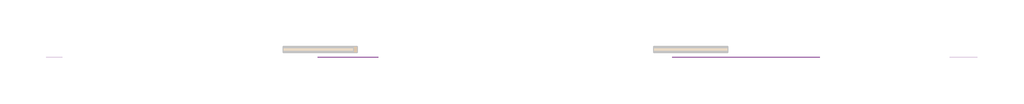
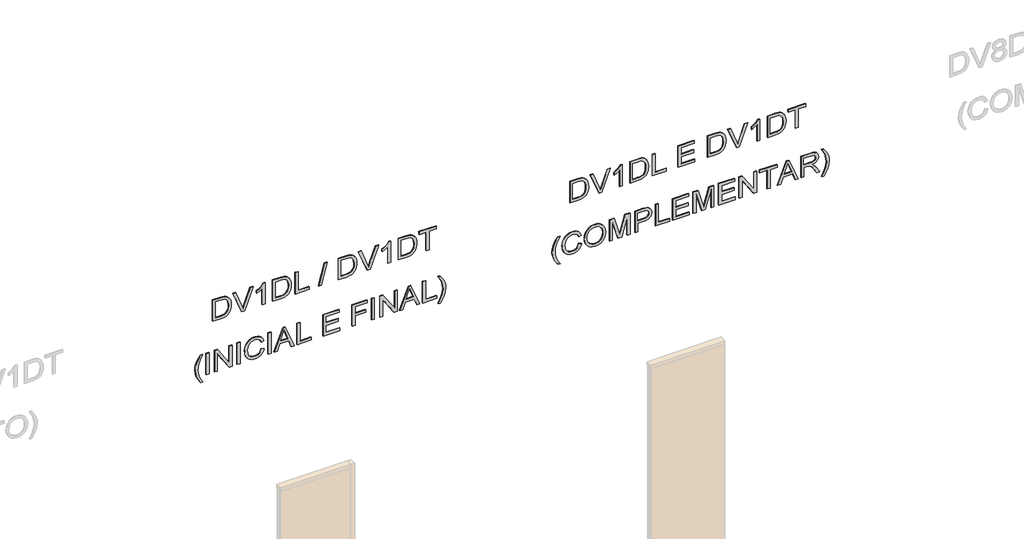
# One storey, part 2 of 7: 2 proxies.
"""IFC4 building model written with IfcOpenShell, lengths in millimetres."""

from ifc_helpers import new_model, si_unit, frame, origin, place, context, project, spatial, polyline, outline, extrude, element, save

model = new_model("IFC4")

# Units and contexts
model_context = context("Model", 3, world=origin())
ifc_project = project(units=[si_unit("LENGTHUNIT", "METRE", prefix="MILLI")], contexts=[model_context])

# Site, building, storey
site = spatial("IfcSite", under=ifc_project)
building = spatial("IfcBuilding", under=site)
storey = spatial("IfcBuildingStorey", under=building, Name="02 - Marelli - Planta Baixa - Painel Duplo", Elevation=-12000.0)

# Proxies
placement = place(None, origin())
element("IfcBuildingElementProxy", 1, Name="300mm Arial", ObjectType="300mm Arial", at=placement, inside=storey, context=model_context, shape_type="SweptSolid", body=[
    extrude(outline(polyline([(-6049.0625952, 2422.3257524), (-6049.0625952, 2531.2923993), (-6043.9122473, 2579.7424581), (-6037.5570858, 2599.2861891), (-6028.7922972, 2615.7581054), (-6016.9740882, 2630.1055032), (-6001.458665, 2643.2756787), (-5981.8045694, 2654.7168087), (-5957.570343, 2663.8770704), (-5929.1054736, 2669.891941), (-5896.7594492, 2671.8968979), (-5858.6836627, 2668.9354478), (-5825.0960365, 2660.0510977), (-5796.5483937, 2645.2070591), (-5773.5925572, 2624.3665441), (-5760.4039877, 2604.0962462), (-5752.0346723, 2580.0735519), (-5747.6936647, 2526.2892042), (-5747.6936647, 2422.3257524), (-6049.0625952, 2422.3257524)]), holes=[polyline([(-6011.3914789, 2459.9968687), (-5785.364781, 2459.9968687), (-5785.364781, 2525.6270166), (-5786.8730972, 2557.3752328), (-5791.3980458, 2579.0434823), (-5803.97961, 2600.3346528), (-5824.8017309, 2618.1493384), (-5855.1152073, 2630.2066708), (-5896.170838, 2634.2257816), (-5927.155699, 2632.1748395), (-5953.155759, 2626.0220131), (-5974.2629885, 2616.1903668), (-5990.5693579, 2603.1029648), (-5999.3801317, 2590.9260708), (-6005.9468253, 2575.1439332), (-6010.0303155, 2554.2298417), (-6011.3914789, 2526.6570862), (-6011.3914789, 2459.9968687)])]), frame((0.0, 8778.3159498, 0.0), z_axis=(0.0, 1.0, 0.0), x_axis=(0.0, 0.0, 1.0)), (0.0, 0.0, 1.0), 10.0),
    extrude(outline(polyline([(-6049.0625952, 2812.7221256), (-6049.0625952, 2851.6440407), (-5747.6936647, 2966.4967996), (-5747.6936647, 2926.176933), (-5964.8176183, 2845.6843524), (-6013.7459236, 2829.6446974), (-5964.8176183, 2813.3843132), (-5747.6936647, 2733.1124619), (-5747.6936647, 2692.7925952), (-6049.0625952, 2812.7221256)])), frame((0.0, 8778.3159498, 0.0), z_axis=(0.0, 1.0, 0.0), x_axis=(0.0, 0.0, 1.0)), (0.0, 0.0, 1.0), 10.0),
    extrude(outline(polyline([(-6049.0625952, 3128.6591831), (-5747.6936647, 3128.6591831), (-5747.6936647, 3104.3789714), (-5767.4305338, 3091.0708403), (-5787.7928022, 3070.8649217), (-5806.9410601, 3045.2327437), (-5823.0358973, 3015.6458342), (-5858.6468745, 3015.6458342), (-5839.6273753, 3055.3035133), (-5814.2067295, 3090.9880668), (-6049.0625952, 3090.9880668), (-6049.0625952, 3128.6591831)])), frame((0.0, 8778.3159498, 0.0), z_axis=(0.0, 1.0, 0.0), x_axis=(0.0, 0.0, 1.0)), (0.0, 0.0, 1.0), 10.0),
    extrude(outline(polyline([(-6049.0625952, 3232.2547529), (-6049.0625952, 3341.2213999), (-6043.9122473, 3389.6714587), (-6037.5570858, 3409.2151897), (-6028.7922972, 3425.687106), (-6016.9740882, 3440.0345038), (-6001.458665, 3453.2046793), (-5981.8045694, 3464.6458093), (-5957.570343, 3473.806071), (-5929.1054736, 3479.8209416), (-5896.7594492, 3481.8258985), (-5858.6836627, 3478.8644484), (-5825.0960365, 3469.9800982), (-5796.5483937, 3455.1360597), (-5773.5925572, 3434.2955447), (-5760.4039877, 3414.0252468), (-5752.0346723, 3390.0025525), (-5747.6936647, 3336.2182048), (-5747.6936647, 3232.2547529), (-6049.0625952, 3232.2547529)]), holes=[polyline([(-6011.3914789, 3269.9258693), (-5785.364781, 3269.9258693), (-5785.364781, 3335.5560172), (-5786.8730972, 3367.3042334), (-5791.3980458, 3388.9724829), (-5803.97961, 3410.2636534), (-5824.8017309, 3428.078339), (-5855.1152073, 3440.1356714), (-5896.170838, 3444.1547822), (-5927.155699, 3442.10384), (-5953.155759, 3435.9510137), (-5974.2629885, 3426.1193674), (-5990.5693579, 3413.0319654), (-5999.3801317, 3400.8550713), (-6005.9468253, 3385.0729337), (-6010.0303155, 3364.1588423), (-6011.3914789, 3336.5860868), (-6011.3914789, 3269.9258693)])]), frame((0.0, 8778.3159498, 0.0), z_axis=(0.0, 1.0, 0.0), x_axis=(0.0, 0.0, 1.0)), (0.0, 0.0, 1.0), 10.0),
    extrude(outline(polyline([(-6049.0625952, 3533.6236834), (-6049.0625952, 3721.9792649), (-6011.3914789, 3721.9792649), (-6011.3914789, 3571.2947997), (-5747.6936647, 3571.2947997), (-5747.6936647, 3533.6236834), (-6049.0625952, 3533.6236834)])), frame((0.0, 8778.3159498, 0.0), z_axis=(0.0, 1.0, 0.0), x_axis=(0.0, 0.0, 1.0)), (0.0, 0.0, 1.0), 10.0),
    extrude(outline(polyline([(-6049.0625952, 3849.1192825), (-6049.0625952, 3883.1115788), (-5747.6936647, 3967.8715905), (-5747.6936647, 3933.8792942), (-6049.0625952, 3849.1192825)])), frame((0.0, 8778.3159498, 0.0), z_axis=(0.0, 1.0, 0.0), x_axis=(0.0, 0.0, 1.0)), (0.0, 0.0, 1.0), 10.0),
    extrude(outline(polyline([(-6049.0625952, 4117.5259861), (-6049.0625952, 4226.4926331), (-6043.9122473, 4274.9426919), (-6037.5570858, 4294.4864229), (-6028.7922972, 4310.9583392), (-6016.9740882, 4325.305737), (-6001.458665, 4338.4759124), (-5981.8045694, 4349.9170425), (-5957.570343, 4359.0773042), (-5929.1054736, 4365.0921748), (-5896.7594492, 4367.0971317), (-5858.6836627, 4364.1356816), (-5825.0960365, 4355.2513314), (-5796.5483937, 4340.4072929), (-5773.5925572, 4319.5667779), (-5760.4039877, 4299.29648), (-5752.0346723, 4275.2737857), (-5747.6936647, 4221.489438), (-5747.6936647, 4117.5259861), (-6049.0625952, 4117.5259861)]), holes=[polyline([(-6011.3914789, 4155.1971024), (-5785.364781, 4155.1971024), (-5785.364781, 4220.8272504), (-5786.8730972, 4252.5754666), (-5791.3980458, 4274.2437161), (-5803.97961, 4295.5348866), (-5824.8017309, 4313.3495722), (-5855.1152073, 4325.4069046), (-5896.170838, 4329.4260154), (-5927.155699, 4327.3750732), (-5953.155759, 4321.2222469), (-5974.2629885, 4311.3906006), (-5990.5693579, 4298.3031986), (-5999.3801317, 4286.1263045), (-6005.9468253, 4270.3441669), (-6010.0303155, 4249.4300755), (-6011.3914789, 4221.85732), (-6011.3914789, 4155.1971024)])]), frame((0.0, 8778.3159498, 0.0), z_axis=(0.0, 1.0, 0.0), x_axis=(0.0, 0.0, 1.0)), (0.0, 0.0, 1.0), 10.0),
    extrude(outline(polyline([(-6049.0625952, 4507.9223594), (-6049.0625952, 4546.8442745), (-5747.6936647, 4661.6970334), (-5747.6936647, 4621.3771667), (-5964.8176183, 4540.8845862), (-6013.7459236, 4524.8449312), (-5964.8176183, 4508.584547), (-5747.6936647, 4428.3126957), (-5747.6936647, 4387.992829), (-6049.0625952, 4507.9223594)])), frame((0.0, 8778.3159498, 0.0), z_axis=(0.0, 1.0, 0.0), x_axis=(0.0, 0.0, 1.0)), (0.0, 0.0, 1.0), 10.0),
    extrude(outline(polyline([(-6049.0625952, 4823.8594169), (-5747.6936647, 4823.8594169), (-5747.6936647, 4799.5792052), (-5767.4305338, 4786.271074), (-5787.7928022, 4766.0651554), (-5806.9410601, 4740.4329774), (-5823.0358973, 4710.846068), (-5858.6468745, 4710.846068), (-5839.6273753, 4750.503747), (-5814.2067295, 4786.1883006), (-6049.0625952, 4786.1883006), (-6049.0625952, 4823.8594169)])), frame((0.0, 8778.3159498, 0.0), z_axis=(0.0, 1.0, 0.0), x_axis=(0.0, 0.0, 1.0)), (0.0, 0.0, 1.0), 10.0),
    extrude(outline(polyline([(-6049.0625952, 4927.4549867), (-6049.0625952, 5036.4216337), (-6043.9122473, 5084.8716925), (-6037.5570858, 5104.4154235), (-6028.7922972, 5120.8873398), (-6016.9740882, 5135.2347376), (-6001.458665, 5148.404913), (-5981.8045694, 5159.8460431), (-5957.570343, 5169.0063048), (-5929.1054736, 5175.0211754), (-5896.7594492, 5177.0261323), (-5858.6836627, 5174.0646822), (-5825.0960365, 5165.180332), (-5796.5483937, 5150.3362935), (-5773.5925572, 5129.4957785), (-5760.4039877, 5109.2254805), (-5752.0346723, 5085.2027863), (-5747.6936647, 5031.4184386), (-5747.6936647, 4927.4549867), (-6049.0625952, 4927.4549867)]), holes=[polyline([(-6011.3914789, 4965.126103), (-5785.364781, 4965.126103), (-5785.364781, 5030.756251), (-5786.8730972, 5062.5044672), (-5791.3980458, 5084.1727167), (-5803.97961, 5105.4638871), (-5824.8017309, 5123.2785728), (-5855.1152073, 5135.3359051), (-5896.170838, 5139.3550159), (-5927.155699, 5137.3040738), (-5953.155759, 5131.1512475), (-5974.2629885, 5121.3196011), (-5990.5693579, 5108.2321992), (-5999.3801317, 5096.0553051), (-6005.9468253, 5080.2731675), (-6010.0303155, 5059.3590761), (-6011.3914789, 5031.7863206), (-6011.3914789, 4965.126103)])]), frame((0.0, 8778.3159498, 0.0), z_axis=(0.0, 1.0, 0.0), x_axis=(0.0, 0.0, 1.0)), (0.0, 0.0, 1.0), 10.0),
    extrude(outline(polyline([(-6049.0625952, 5304.1661498), (-6049.0625952, 5341.8372661), (-5785.364781, 5341.8372661), (-5785.364781, 5440.7239464), (-5747.6936647, 5440.7239464), (-5747.6936647, 5205.2794695), (-5785.364781, 5205.2794695), (-5785.364781, 5304.1661498), (-6049.0625952, 5304.1661498)])), frame((0.0, 8778.3159498, 0.0), z_axis=(0.0, 1.0, 0.0), x_axis=(0.0, 0.0, 1.0)), (0.0, 0.0, 1.0), 10.0),
    extrude(outline(polyline([(-6865.6715139, 2257.5146185), (-6865.6715139, 2285.7679558), (-6817.4329873, 2256.9260073), (-6769.1760666, 2236.3246156), (-6720.9007518, 2223.9637806), (-6672.6070429, 2219.8435022), (-6634.7335915, 2222.2163411), (-6597.0440811, 2229.3348577), (-6539.2130314, 2250.5248606), (-6479.5425718, 2285.7679558), (-6479.5425718, 2257.5146185), (-6530.0527697, 2222.8233464), (-6580.7836969, 2198.5063465), (-6625.5733298, 2186.2558761), (-6672.3863137, 2182.1723859), (-6725.7659912, 2187.6354335), (-6777.3062587, 2204.0245764), (-6824.7078538, 2228.3231822), (-6865.6715139, 2257.5146185)])), frame((0.0, 8778.3159498, 0.0), z_axis=(0.0, 1.0, 0.0), x_axis=(0.0, 0.0, 1.0)), (0.0, 0.0, 1.0), 10.0),
    extrude(outline(polyline([(2370.5279674, 8778.3159498), (2332.8568511, 8778.3159498), (2332.8568511, 8788.3159498), (2370.5279674, 8788.3159498), (2370.5279674, 8778.3159498)])), frame((0.0, 0.0, -6780.9115023), z_axis=(0.0, 0.0, 1.0), x_axis=(1.0, 0.0, 0.0)), (0.0, 0.0, 1.0), 301.3689304),
    extrude(outline(polyline([(-6780.9115023, 2445.8702001), (-6780.9115023, 2483.5413164), (-6542.082511, 2483.5413164), (-6780.9115023, 2640.9948103), (-6780.9115023, 2681.314677), (-6479.5425718, 2681.314677), (-6479.5425718, 2643.6435607), (-6718.2979867, 2643.6435607), (-6479.5425718, 2486.1900667), (-6479.5425718, 2445.8702001), (-6780.9115023, 2445.8702001)])), frame((0.0, 8778.3159498, 0.0), z_axis=(0.0, 1.0, 0.0), x_axis=(0.0, 0.0, 1.0)), (0.0, 0.0, 1.0), 10.0),
    extrude(outline(polyline([(2789.6191364, 8778.3159498), (2751.94802, 8778.3159498), (2751.94802, 8788.3159498), (2789.6191364, 8788.3159498), (2789.6191364, 8778.3159498)])), frame((0.0, 0.0, -6780.9115023), z_axis=(0.0, 0.0, 1.0), x_axis=(1.0, 0.0, 0.0)), (0.0, 0.0, 1.0), 301.3689304),
    extrude(outline(polyline([(-6673.7842653, 3076.8613982), (-6706.0475162, 3064.6753071), (-6729.2608701, 3044.8924528), (-6743.2771741, 3018.6900577), (-6747.9492755, 2987.2453442), (-6744.5187759, 2960.2703969), (-6734.2272771, 2935.2636182), (-6717.0012026, 2914.4047091), (-6692.7669762, 2899.8733703), (-6662.674229, 2891.3477051), (-6627.8725923, 2888.5058167), (-6599.4537081, 2890.9062467), (-6571.8809526, 2898.1075367), (-6547.4903763, 2911.2317269), (-6528.61803, 2931.4008573), (-6516.5331064, 2957.9803314), (-6512.5047986, 2990.3355529), (-6516.1376333, 3018.4049492), (-6527.0361374, 3041.2504211), (-6545.8808926, 3059.0926978), (-6573.3524806, 3072.1525086), (-6564.3761599, 3109.823625), (-6526.5578908, 3093.1861617), (-6511.2356057, 3081.3840475), (-6498.3045536, 3067.2596781), (-6488.0360474, 3051.0797681), (-6480.7014001, 3033.1110319), (-6474.8336823, 2991.8070809), (-6479.3678279, 2953.9520236), (-6492.9702646, 2919.4079043), (-6515.3098988, 2890.2808473), (-6546.0556365, 2868.6769771), (-6584.0026643, 2855.2952695), (-6627.9461687, 2850.8347003), (-6669.6088046, 2854.7802347), (-6708.5123256, 2866.6168379), (-6741.6033111, 2886.0042191), (-6765.8283405, 2912.6020873), (-6780.672379, 2947.3025565), (-6785.6203918, 2990.9977405), (-6783.9856162, 3013.4201481), (-6779.0812893, 3034.0399339), (-6770.9074112, 3052.857098), (-6759.4639819, 3069.8716403), (-6744.9073512, 3084.7478685), (-6727.393869, 3097.1500902), (-6706.9235352, 3107.0783056), (-6683.4963499, 3114.5325145), (-6673.7842653, 3076.8613982)])), frame((0.0, 8778.3159498, 0.0), z_axis=(0.0, 1.0, 0.0), x_axis=(0.0, 0.0, 1.0)), (0.0, 0.0, 1.0), 10.0),
    extrude(outline(polyline([(3208.7103053, 8778.3159498), (3171.039189, 8778.3159498), (3171.039189, 8788.3159498), (3208.7103053, 8788.3159498), (3208.7103053, 8778.3159498)])), frame((0.0, 0.0, -6780.9115023), z_axis=(0.0, 0.0, 1.0), x_axis=(1.0, 0.0, 0.0)), (0.0, 0.0, 1.0), 301.3689304),
    extrude(outline(polyline([(-6780.9115023, 3248.9565955), (-6780.9115023, 3288.7614274), (-6686.7337115, 3323.1951822), (-6686.7337115, 3447.3185673), (-6780.9115023, 3481.8258985), (-6780.9115023, 3521.6307304), (-6479.5425718, 3401.3333179), (-6479.5425718, 3369.254008), (-6780.9115023, 3248.9565955)]), holes=[polyline([(-6649.0625952, 3337.0275452), (-6568.4964382, 3366.5316812), (-6517.2136881, 3385.2936629), (-6574.9711614, 3406.4100895), (-6649.0625952, 3433.5597807), (-6649.0625952, 3337.0275452)])]), frame((0.0, 8778.3159498, 0.0), z_axis=(0.0, 1.0, 0.0), x_axis=(0.0, 0.0, 1.0)), (0.0, 0.0, 1.0), 10.0),
    extrude(outline(polyline([(-6780.9115023, 3561.8770206), (-6780.9115023, 3750.2326022), (-6743.2403859, 3750.2326022), (-6743.2403859, 3599.5481369), (-6479.5425718, 3599.5481369), (-6479.5425718, 3561.8770206), (-6780.9115023, 3561.8770206)])), frame((0.0, 8778.3159498, 0.0), z_axis=(0.0, 1.0, 0.0), x_axis=(0.0, 0.0, 1.0)), (0.0, 0.0, 1.0), 10.0),
    extrude(outline(polyline([(-6780.9115023, 3910.3348465), (-6780.9115023, 4131.6526548), (-6743.2403859, 4131.6526548), (-6743.2403859, 3948.0059628), (-6644.3537056, 3948.0059628), (-6644.3537056, 4117.5259861), (-6606.6825893, 4117.5259861), (-6606.6825893, 3948.0059628), (-6517.2136881, 3948.0059628), (-6517.2136881, 4126.9437652), (-6479.5425718, 4126.9437652), (-6479.5425718, 3910.3348465), (-6780.9115023, 3910.3348465)])), frame((0.0, 8778.3159498, 0.0), z_axis=(0.0, 1.0, 0.0), x_axis=(0.0, 0.0, 1.0)), (0.0, 0.0, 1.0), 10.0),
    extrude(outline(polyline([(-6780.9115023, 4305.8815677), (-6780.9115023, 4343.552684), (-6644.3537056, 4343.552684), (-6644.3537056, 4484.8193701), (-6606.6825893, 4484.8193701), (-6606.6825893, 4343.552684), (-6517.2136881, 4343.552684), (-6517.2136881, 4508.3638178), (-6479.5425718, 4508.3638178), (-6479.5425718, 4305.8815677), (-6780.9115023, 4305.8815677)])), frame((0.0, 8778.3159498, 0.0), z_axis=(0.0, 1.0, 0.0), x_axis=(0.0, 0.0, 1.0)), (0.0, 0.0, 1.0), 10.0),
    extrude(outline(polyline([(4602.5416086, 8778.3159498), (4564.8704923, 8778.3159498), (4564.8704923, 8788.3159498), (4602.5416086, 8788.3159498), (4602.5416086, 8778.3159498)])), frame((0.0, 0.0, -6780.9115023), z_axis=(0.0, 0.0, 1.0), x_axis=(1.0, 0.0, 0.0)), (0.0, 0.0, 1.0), 301.3689304),
    extrude(outline(polyline([(-6780.9115023, 4677.8838412), (-6780.9115023, 4715.5549575), (-6542.082511, 4715.5549575), (-6780.9115023, 4873.0084514), (-6780.9115023, 4913.3283181), (-6479.5425718, 4913.3283181), (-6479.5425718, 4875.6572018), (-6718.2979867, 4875.6572018), (-6479.5425718, 4718.2037079), (-6479.5425718, 4677.8838412), (-6780.9115023, 4677.8838412)])), frame((0.0, 8778.3159498, 0.0), z_axis=(0.0, 1.0, 0.0), x_axis=(0.0, 0.0, 1.0)), (0.0, 0.0, 1.0), 10.0),
    extrude(outline(polyline([(-6780.9115023, 4944.1568293), (-6780.9115023, 4983.9616612), (-6686.7337115, 5018.3954159), (-6686.7337115, 5142.5188011), (-6780.9115023, 5177.0261323), (-6780.9115023, 5216.8309641), (-6479.5425718, 5096.5335517), (-6479.5425718, 5064.4542417), (-6780.9115023, 4944.1568293)]), holes=[polyline([(-6649.0625952, 5032.227779), (-6568.4964382, 5061.731915), (-6517.2136881, 5080.4938967), (-6574.9711614, 5101.6103232), (-6649.0625952, 5128.7600145), (-6649.0625952, 5032.227779)])]), frame((0.0, 8778.3159498, 0.0), z_axis=(0.0, 1.0, 0.0), x_axis=(0.0, 0.0, 1.0)), (0.0, 0.0, 1.0), 10.0),
    extrude(outline(polyline([(-6780.9115023, 5257.0772544), (-6780.9115023, 5445.4328359), (-6743.2403859, 5445.4328359), (-6743.2403859, 5294.7483707), (-6479.5425718, 5294.7483707), (-6479.5425718, 5257.0772544), (-6780.9115023, 5257.0772544)])), frame((0.0, 8778.3159498, 0.0), z_axis=(0.0, 1.0, 0.0), x_axis=(0.0, 0.0, 1.0)), (0.0, 0.0, 1.0), 10.0),
    extrude(outline(polyline([(-6865.6715139, 5492.5217313), (-6824.7078538, 5521.5752119), (-6777.3062587, 5545.9014088), (-6725.7659912, 5562.3733251), (-6672.3863137, 5567.8639639), (-6625.5733298, 5563.7804738), (-6580.7836969, 5551.5300033), (-6530.0527697, 5527.2130035), (-6479.5425718, 5492.5217313), (-6479.5425718, 5464.2683941), (-6539.8016426, 5499.7322184), (-6568.1469503, 5511.7067774), (-6597.7062687, 5520.7014921), (-6635.009503, 5527.8200088), (-6672.6070429, 5530.1928476), (-6720.9007518, 5526.0725693), (-6769.1760666, 5513.7117342), (-6817.4329873, 5493.1103425), (-6865.6715139, 5464.2683941), (-6865.6715139, 5492.5217313)])), frame((0.0, 8778.3159498, 0.0), z_axis=(0.0, 1.0, 0.0), x_axis=(0.0, 0.0, 1.0)), (0.0, 0.0, 1.0), 10.0),
])
element("IfcBuildingElementProxy", 2, Name="300mm Arial", ObjectType="300mm Arial", at=placement, inside=storey, context=model_context, shape_type="SweptSolid", body=[
    extrude(outline(polyline([(-6049.0625952, 7245.7423947), (-6049.0625952, 7354.7090417), (-6043.9122473, 7403.1591004), (-6037.5570858, 7422.7028314), (-6028.7922972, 7439.1747477), (-6016.9740882, 7453.5221456), (-6001.458665, 7466.692321), (-5981.8045694, 7478.133451), (-5957.570343, 7487.2937127), (-5929.1054736, 7493.3085833), (-5896.7594492, 7495.3135402), (-5858.6836627, 7492.3520901), (-5825.0960365, 7483.46774), (-5796.5483937, 7468.6237015), (-5773.5925572, 7447.7831864), (-5760.4039877, 7427.5128885), (-5752.0346723, 7403.4901942), (-5747.6936647, 7349.7058465), (-5747.6936647, 7245.7423947), (-6049.0625952, 7245.7423947)]), holes=[polyline([(-6011.3914789, 7283.413511), (-5785.364781, 7283.413511), (-5785.364781, 7349.0436589), (-5786.8730972, 7380.7918751), (-5791.3980458, 7402.4601246), (-5803.97961, 7423.7512951), (-5824.8017309, 7441.5659807), (-5855.1152073, 7453.6233131), (-5896.170838, 7457.6424239), (-5927.155699, 7455.5914818), (-5953.155759, 7449.4386554), (-5974.2629885, 7439.6070091), (-5990.5693579, 7426.5196071), (-5999.3801317, 7414.3427131), (-6005.9468253, 7398.5605755), (-6010.0303155, 7377.6464841), (-6011.3914789, 7350.0737285), (-6011.3914789, 7283.413511)])]), frame((0.0, 8778.3159498, 0.0), z_axis=(0.0, 1.0, 0.0), x_axis=(0.0, 0.0, 1.0)), (0.0, 0.0, 1.0), 10.0),
    extrude(outline(polyline([(-6049.0625952, 7636.138768), (-6049.0625952, 7675.0606831), (-5747.6936647, 7789.9134419), (-5747.6936647, 7749.5935753), (-5964.8176183, 7669.1009947), (-6013.7459236, 7653.0613397), (-5964.8176183, 7636.8009556), (-5747.6936647, 7556.5291042), (-5747.6936647, 7516.2092375), (-6049.0625952, 7636.138768)])), frame((0.0, 8778.3159498, 0.0), z_axis=(0.0, 1.0, 0.0), x_axis=(0.0, 0.0, 1.0)), (0.0, 0.0, 1.0), 10.0),
    extrude(outline(polyline([(-6049.0625952, 7952.0758254), (-5747.6936647, 7952.0758254), (-5747.6936647, 7927.7956137), (-5767.4305338, 7914.4874826), (-5787.7928022, 7894.281564), (-5806.9410601, 7868.649386), (-5823.0358973, 7839.0624765), (-5858.6468745, 7839.0624765), (-5839.6273753, 7878.7201556), (-5814.2067295, 7914.4047091), (-6049.0625952, 7914.4047091), (-6049.0625952, 7952.0758254)])), frame((0.0, 8778.3159498, 0.0), z_axis=(0.0, 1.0, 0.0), x_axis=(0.0, 0.0, 1.0)), (0.0, 0.0, 1.0), 10.0),
    extrude(outline(polyline([(-6049.0625952, 8055.6713953), (-6049.0625952, 8164.6380422), (-6043.9122473, 8213.088101), (-6037.5570858, 8232.631832), (-6028.7922972, 8249.1037483), (-6016.9740882, 8263.4511461), (-6001.458665, 8276.6213216), (-5981.8045694, 8288.0624516), (-5957.570343, 8297.2227133), (-5929.1054736, 8303.2375839), (-5896.7594492, 8305.2425408), (-5858.6836627, 8302.2810907), (-5825.0960365, 8293.3967405), (-5796.5483937, 8278.552702), (-5773.5925572, 8257.712187), (-5760.4039877, 8237.4418891), (-5752.0346723, 8213.4191948), (-5747.6936647, 8159.6348471), (-5747.6936647, 8055.6713953), (-6049.0625952, 8055.6713953)]), holes=[polyline([(-6011.3914789, 8093.3425116), (-5785.364781, 8093.3425116), (-5785.364781, 8158.9726595), (-5786.8730972, 8190.7208757), (-5791.3980458, 8212.3891252), (-5803.97961, 8233.6802957), (-5824.8017309, 8251.4949813), (-5855.1152073, 8263.5523137), (-5896.170838, 8267.5714245), (-5927.155699, 8265.5204824), (-5953.155759, 8259.367656), (-5974.2629885, 8249.5360097), (-5990.5693579, 8236.4486077), (-5999.3801317, 8224.2717137), (-6005.9468253, 8208.4895761), (-6010.0303155, 8187.5754846), (-6011.3914789, 8160.0027291), (-6011.3914789, 8093.3425116)])]), frame((0.0, 8778.3159498, 0.0), z_axis=(0.0, 1.0, 0.0), x_axis=(0.0, 0.0, 1.0)), (0.0, 0.0, 1.0), 10.0),
    extrude(outline(polyline([(-6049.0625952, 8357.0403257), (-6049.0625952, 8545.3959072), (-6011.3914789, 8545.3959072), (-6011.3914789, 8394.711442), (-5747.6936647, 8394.711442), (-5747.6936647, 8357.0403257), (-6049.0625952, 8357.0403257)])), frame((0.0, 8778.3159498, 0.0), z_axis=(0.0, 1.0, 0.0), x_axis=(0.0, 0.0, 1.0)), (0.0, 0.0, 1.0), 10.0),
    extrude(outline(polyline([(-6049.0625952, 8705.4981515), (-6049.0625952, 8926.8159598), (-6011.3914789, 8926.8159598), (-6011.3914789, 8743.1692679), (-5912.5047986, 8743.1692679), (-5912.5047986, 8912.6892912), (-5874.8336823, 8912.6892912), (-5874.8336823, 8743.1692679), (-5785.364781, 8743.1692679), (-5785.364781, 8922.1070703), (-5747.6936647, 8922.1070703), (-5747.6936647, 8705.4981515), (-6049.0625952, 8705.4981515)])), frame((0.0, 8778.3159498, 0.0), z_axis=(0.0, 1.0, 0.0), x_axis=(0.0, 0.0, 1.0)), (0.0, 0.0, 1.0), 10.0),
    extrude(outline(polyline([(-6049.0625952, 9101.0448728), (-6049.0625952, 9210.0115197), (-6043.9122473, 9258.4615785), (-6037.5570858, 9278.0053095), (-6028.7922972, 9294.4772258), (-6016.9740882, 9308.8246236), (-6001.458665, 9321.9947991), (-5981.8045694, 9333.4359291), (-5957.570343, 9342.5961908), (-5929.1054736, 9348.6110614), (-5896.7594492, 9350.6160183), (-5858.6836627, 9347.6545682), (-5825.0960365, 9338.770218), (-5796.5483937, 9323.9261795), (-5773.5925572, 9303.0856645), (-5760.4039877, 9282.8153666), (-5752.0346723, 9258.7926723), (-5747.6936647, 9205.0083246), (-5747.6936647, 9101.0448728), (-6049.0625952, 9101.0448728)]), holes=[polyline([(-6011.3914789, 9138.7159891), (-5785.364781, 9138.7159891), (-5785.364781, 9204.346137), (-5786.8730972, 9236.0943532), (-5791.3980458, 9257.7626027), (-5803.97961, 9279.0537732), (-5824.8017309, 9296.8684588), (-5855.1152073, 9308.9257912), (-5896.170838, 9312.944902), (-5927.155699, 9310.8939599), (-5953.155759, 9304.7411335), (-5974.2629885, 9294.9094872), (-5990.5693579, 9281.8220852), (-5999.3801317, 9269.6451911), (-6005.9468253, 9253.8630536), (-6010.0303155, 9232.9489621), (-6011.3914789, 9205.3762066), (-6011.3914789, 9138.7159891)])]), frame((0.0, 8778.3159498, 0.0), z_axis=(0.0, 1.0, 0.0), x_axis=(0.0, 0.0, 1.0)), (0.0, 0.0, 1.0), 10.0),
    extrude(outline(polyline([(-6049.0625952, 9491.441246), (-6049.0625952, 9530.3631611), (-5747.6936647, 9645.21592), (-5747.6936647, 9604.8960534), (-5964.8176183, 9524.4034728), (-6013.7459236, 9508.3638178), (-5964.8176183, 9492.1034336), (-5747.6936647, 9411.8315823), (-5747.6936647, 9371.5117156), (-6049.0625952, 9491.441246)])), frame((0.0, 8778.3159498, 0.0), z_axis=(0.0, 1.0, 0.0), x_axis=(0.0, 0.0, 1.0)), (0.0, 0.0, 1.0), 10.0),
    extrude(outline(polyline([(-6049.0625952, 9807.3783035), (-5747.6936647, 9807.3783035), (-5747.6936647, 9783.0980918), (-5767.4305338, 9769.7899606), (-5787.7928022, 9749.5840421), (-5806.9410601, 9723.951864), (-5823.0358973, 9694.3649546), (-5858.6468745, 9694.3649546), (-5839.6273753, 9734.0226337), (-5814.2067295, 9769.7071872), (-6049.0625952, 9769.7071872), (-6049.0625952, 9807.3783035)])), frame((0.0, 8778.3159498, 0.0), z_axis=(0.0, 1.0, 0.0), x_axis=(0.0, 0.0, 1.0)), (0.0, 0.0, 1.0), 10.0),
    extrude(outline(polyline([(-6049.0625952, 9910.9738733), (-6049.0625952, 10019.9405203), (-6043.9122473, 10068.3905791), (-6037.5570858, 10087.9343101), (-6028.7922972, 10104.4062264), (-6016.9740882, 10118.7536242), (-6001.458665, 10131.9237996), (-5981.8045694, 10143.3649297), (-5957.570343, 10152.5251914), (-5929.1054736, 10158.540062), (-5896.7594492, 10160.5450189), (-5858.6836627, 10157.5835688), (-5825.0960365, 10148.6992186), (-5796.5483937, 10133.8551801), (-5773.5925572, 10113.0146651), (-5760.4039877, 10092.7443672), (-5752.0346723, 10068.7216729), (-5747.6936647, 10014.9373252), (-5747.6936647, 9910.9738733), (-6049.0625952, 9910.9738733)]), holes=[polyline([(-6011.3914789, 9948.6449896), (-5785.364781, 9948.6449896), (-5785.364781, 10014.2751376), (-5786.8730972, 10046.0233538), (-5791.3980458, 10067.6916033), (-5803.97961, 10088.9827738), (-5824.8017309, 10106.7974594), (-5855.1152073, 10118.8547918), (-5896.170838, 10122.8739026), (-5927.155699, 10120.8229604), (-5953.155759, 10114.6701341), (-5974.2629885, 10104.8384877), (-5990.5693579, 10091.7510858), (-5999.3801317, 10079.5741917), (-6005.9468253, 10063.7920541), (-6010.0303155, 10042.8779627), (-6011.3914789, 10015.3052072), (-6011.3914789, 9948.6449896)])]), frame((0.0, 8778.3159498, 0.0), z_axis=(0.0, 1.0, 0.0), x_axis=(0.0, 0.0, 1.0)), (0.0, 0.0, 1.0), 10.0),
    extrude(outline(polyline([(-6049.0625952, 10287.6850364), (-6049.0625952, 10325.3561527), (-5785.364781, 10325.3561527), (-5785.364781, 10424.242833), (-5747.6936647, 10424.242833), (-5747.6936647, 10188.7983561), (-5785.364781, 10188.7983561), (-5785.364781, 10287.6850364), (-6049.0625952, 10287.6850364)])), frame((0.0, 8778.3159498, 0.0), z_axis=(0.0, 1.0, 0.0), x_axis=(0.0, 0.0, 1.0)), (0.0, 0.0, 1.0), 10.0),
    extrude(outline(polyline([(-6865.6715139, 7080.9312608), (-6865.6715139, 7109.1845981), (-6817.4329873, 7080.3426497), (-6769.1760666, 7059.7412579), (-6720.9007518, 7047.3804229), (-6672.6070429, 7043.2601445), (-6634.7335915, 7045.6329834), (-6597.0440811, 7052.7515), (-6539.2130314, 7073.9415029), (-6479.5425718, 7109.1845981), (-6479.5425718, 7080.9312608), (-6530.0527697, 7046.2399887), (-6580.7836969, 7021.9229888), (-6625.5733298, 7009.6725184), (-6672.3863137, 7005.5890282), (-6725.7659912, 7011.0520759), (-6777.3062587, 7027.4412187), (-6824.7078538, 7051.7398245), (-6865.6715139, 7080.9312608)])), frame((0.0, 8778.3159498, 0.0), z_axis=(0.0, 1.0, 0.0), x_axis=(0.0, 0.0, 1.0)), (0.0, 0.0, 1.0), 10.0),
    extrude(outline(polyline([(-6673.7842653, 7363.4646331), (-6706.0475162, 7351.278542), (-6729.2608701, 7331.4956878), (-6743.2771741, 7305.2932927), (-6747.9492755, 7273.8485791), (-6744.5187759, 7246.8736318), (-6734.2272771, 7221.8668532), (-6717.0012026, 7201.0079441), (-6692.7669762, 7186.4766053), (-6662.674229, 7177.95094), (-6627.8725923, 7175.1090516), (-6599.4537081, 7177.5094816), (-6571.8809526, 7184.7107717), (-6547.4903763, 7197.8349619), (-6528.61803, 7218.0040922), (-6516.5331064, 7244.5835664), (-6512.5047986, 7276.9387879), (-6516.1376333, 7305.0081841), (-6527.0361374, 7327.853656), (-6545.8808926, 7345.6959328), (-6573.3524806, 7358.7557436), (-6564.3761599, 7396.4268599), (-6526.5578908, 7379.7893967), (-6511.2356057, 7367.9872824), (-6498.3045536, 7353.8629131), (-6488.0360474, 7337.6830031), (-6480.7014001, 7319.7142669), (-6474.8336823, 7278.4103159), (-6479.3678279, 7240.5552586), (-6492.9702646, 7206.0111392), (-6515.3098988, 7176.8840822), (-6546.0556365, 7155.2802121), (-6584.0026643, 7141.8985045), (-6627.9461687, 7137.4379353), (-6669.6088046, 7141.3834697), (-6708.5123256, 7153.2200729), (-6741.6033111, 7172.607454), (-6765.8283405, 7199.2053223), (-6780.672379, 7233.9057915), (-6785.6203918, 7277.6009755), (-6783.9856162, 7300.0233831), (-6779.0812893, 7320.6431689), (-6770.9074112, 7339.460333), (-6759.4639819, 7356.4748752), (-6744.9073512, 7371.3511034), (-6727.393869, 7383.7533252), (-6706.9235352, 7393.6815405), (-6683.4963499, 7401.1357494), (-6673.7842653, 7363.4646331)])), frame((0.0, 8778.3159498, 0.0), z_axis=(0.0, 1.0, 0.0), x_axis=(0.0, 0.0, 1.0)), (0.0, 0.0, 1.0), 10.0),
    extrude(outline(polyline([(-6634.2001626, 7438.8068658), (-6672.7449986, 7443.1110851), (-6709.2113014, 7456.0237431), (-6740.9043353, 7477.2873224), (-6765.1293647, 7506.6443057), (-6780.497635, 7542.292071), (-6785.6203918, 7582.4279967), (-6780.9850787, 7620.2370687), (-6767.0791392, 7655.3789963), (-6744.1600909, 7685.3429848), (-6712.4854512, 7707.6182396), (-6674.0233886, 7721.4414056), (-6630.7420718, 7726.0491276), (-6588.0309722, 7721.6713318), (-6550.1023385, 7708.5379446), (-6518.482881, 7687.0536361), (-6494.69931, 7657.6230765), (-6479.8000892, 7622.1776462), (-6474.8336823, 7582.6487259), (-6477.4778341, 7552.3582421), (-6485.4102896, 7524.9832231), (-6498.6310488, 7500.523669), (-6517.1401117, 7478.9795796), (-6540.3212759, 7461.4040173), (-6567.5583392, 7448.8500442), (-6598.8513014, 7441.3176604), (-6634.2001626, 7438.8068658)]), holes=[polyline([(-6634.5680446, 7476.4779821), (-6604.0315397, 7478.4415522), (-6578.1993259, 7484.3322627), (-6557.071403, 7494.1501134), (-6540.6477712, 7507.8951044), (-6528.3352207, 7524.3624223), (-6519.5405417, 7542.3472533), (-6514.2637344, 7561.8495976), (-6512.5047986, 7582.8694551), (-6516.1560274, 7612.0333002), (-6527.1097138, 7638.1621189), (-6544.7036702, 7659.8211714), (-6568.275709, 7675.5757178), (-6597.0992634, 7685.1774379), (-6630.4477662, 7688.3780113), (-6656.9858537, 7686.5087109), (-6680.3141707, 7680.9008097), (-6700.4327173, 7671.5543078), (-6717.3414935, 7658.4692051), (-6730.7323981, 7642.4870316), (-6740.29733, 7624.4493176), (-6746.0362891, 7604.3560628), (-6747.9492755, 7582.2072675), (-6746.0546832, 7560.4309526), (-6740.3709064, 7540.5722227), (-6730.897945, 7522.6310776), (-6717.6357991, 7506.6075175), (-6701.0765108, 7493.4258457), (-6681.7121223, 7484.0103659), (-6659.5426335, 7478.361078), (-6634.5680446, 7476.4779821)])]), frame((0.0, 8778.3159498, 0.0), z_axis=(0.0, 1.0, 0.0), x_axis=(0.0, 0.0, 1.0)), (0.0, 0.0, 1.0), 10.0),
    extrude(outline(polyline([(-6780.9115023, 7777.8469125), (-6780.9115023, 7815.5180288), (-6517.2136881, 7815.5180288), (-6780.9115023, 7891.2281434), (-6780.9115023, 7942.2901644), (-6517.2136881, 8018.000279), (-6780.9115023, 8018.000279), (-6780.9115023, 8055.6713953), (-6479.5425718, 8055.6713953), (-6479.5425718, 7990.8505877), (-6688.2788159, 7930.2236349), (-6736.3242044, 7916.7591539), (-6691.9576358, 7904.3247424), (-6479.5425718, 7842.6677201), (-6479.5425718, 7777.8469125), (-6780.9115023, 7777.8469125)])), frame((0.0, 8778.3159498, 0.0), z_axis=(0.0, 1.0, 0.0), x_axis=(0.0, 0.0, 1.0)), (0.0, 0.0, 1.0), 10.0),
    extrude(outline(polyline([(-6780.9115023, 8121.5958488), (-6780.9115023, 8159.2669651), (-6658.4803743, 8159.2669651), (-6658.4803743, 8235.8599965), (-6656.8157082, 8265.0583306), (-6651.8217101, 8289.3776298), (-6643.49838, 8308.8178939), (-6631.8457178, 8323.3791232), (-6617.7880271, 8333.9856209), (-6602.2496113, 8341.5616908), (-6585.2304705, 8346.1073327), (-6566.7306047, 8347.6225466), (-6545.2738873, 8345.3784665), (-6525.6381858, 8338.646226), (-6508.9915255, 8328.2259684), (-6496.5019318, 8314.9178373), (-6487.7739314, 8298.3907386), (-6482.4120514, 8278.3135787), (-6479.5425718, 8233.2848225), (-6479.5425718, 8121.5958488), (-6780.9115023, 8121.5958488)]), holes=[polyline([(-6620.809258, 8159.2669651), (-6517.2136881, 8159.2669651), (-6517.2136881, 8237.1843717), (-6519.7888621, 8274.855488), (-6526.1164324, 8289.0833242), (-6536.8585867, 8300.2761339), (-6551.1324081, 8307.5326062), (-6568.0549798, 8309.9514303), (-6590.3302347, 8305.8495461), (-6606.9768949, 8293.5438933), (-6617.3511672, 8271.4709736), (-6620.809258, 8238.0672885), (-6620.809258, 8159.2669651)])]), frame((0.0, 8778.3159498, 0.0), z_axis=(0.0, 1.0, 0.0), x_axis=(0.0, 0.0, 1.0)), (0.0, 0.0, 1.0), 10.0),
    extrude(outline(polyline([(-6780.9115023, 8399.4203316), (-6780.9115023, 8587.7759131), (-6743.2403859, 8587.7759131), (-6743.2403859, 8437.0914479), (-6479.5425718, 8437.0914479), (-6479.5425718, 8399.4203316), (-6780.9115023, 8399.4203316)])), frame((0.0, 8778.3159498, 0.0), z_axis=(0.0, 1.0, 0.0), x_axis=(0.0, 0.0, 1.0)), (0.0, 0.0, 1.0), 10.0),
    extrude(outline(polyline([(-6780.9115023, 8630.1559189), (-6780.9115023, 8851.4737272), (-6743.2403859, 8851.4737272), (-6743.2403859, 8667.8270352), (-6644.3537056, 8667.8270352), (-6644.3537056, 8837.3470586), (-6606.6825893, 8837.3470586), (-6606.6825893, 8667.8270352), (-6517.2136881, 8667.8270352), (-6517.2136881, 8846.7648377), (-6479.5425718, 8846.7648377), (-6479.5425718, 8630.1559189), (-6780.9115023, 8630.1559189)])), frame((0.0, 8778.3159498, 0.0), z_axis=(0.0, 1.0, 0.0), x_axis=(0.0, 0.0, 1.0)), (0.0, 0.0, 1.0), 10.0),
    extrude(outline(polyline([(-6780.9115023, 8907.9804017), (-6780.9115023, 8945.651518), (-6517.2136881, 8945.651518), (-6780.9115023, 9021.3616326), (-6780.9115023, 9072.4236535), (-6517.2136881, 9148.1337681), (-6780.9115023, 9148.1337681), (-6780.9115023, 9185.8048844), (-6479.5425718, 9185.8048844), (-6479.5425718, 9120.9840769), (-6688.2788159, 9060.3571241), (-6736.3242044, 9046.8926431), (-6691.9576358, 9034.4582316), (-6479.5425718, 8972.8012092), (-6479.5425718, 8907.9804017), (-6780.9115023, 8907.9804017)])), frame((0.0, 8778.3159498, 0.0), z_axis=(0.0, 1.0, 0.0), x_axis=(0.0, 0.0, 1.0)), (0.0, 0.0, 1.0), 10.0),
    extrude(outline(polyline([(-6780.9115023, 9251.729338), (-6780.9115023, 9473.0471463), (-6743.2403859, 9473.0471463), (-6743.2403859, 9289.4004543), (-6644.3537056, 9289.4004543), (-6644.3537056, 9458.9204777), (-6606.6825893, 9458.9204777), (-6606.6825893, 9289.4004543), (-6517.2136881, 9289.4004543), (-6517.2136881, 9468.3382567), (-6479.5425718, 9468.3382567), (-6479.5425718, 9251.729338), (-6780.9115023, 9251.729338)])), frame((0.0, 8778.3159498, 0.0), z_axis=(0.0, 1.0, 0.0), x_axis=(0.0, 0.0, 1.0)), (0.0, 0.0, 1.0), 10.0),
    extrude(outline(polyline([(-6780.9115023, 9529.5538207), (-6780.9115023, 9567.224937), (-6542.082511, 9567.224937), (-6780.9115023, 9724.678431), (-6780.9115023, 9764.9982977), (-6479.5425718, 9764.9982977), (-6479.5425718, 9727.3271813), (-6718.2979867, 9727.3271813), (-6479.5425718, 9569.8736874), (-6479.5425718, 9529.5538207), (-6780.9115023, 9529.5538207)])), frame((0.0, 8778.3159498, 0.0), z_axis=(0.0, 1.0, 0.0), x_axis=(0.0, 0.0, 1.0)), (0.0, 0.0, 1.0), 10.0),
    extrude(outline(polyline([(-6780.9115023, 9906.2649838), (-6780.9115023, 9943.9361001), (-6517.2136881, 9943.9361001), (-6517.2136881, 10042.8227804), (-6479.5425718, 10042.8227804), (-6479.5425718, 9807.3783035), (-6517.2136881, 9807.3783035), (-6517.2136881, 9906.2649838), (-6780.9115023, 9906.2649838)])), frame((0.0, 8778.3159498, 0.0), z_axis=(0.0, 1.0, 0.0), x_axis=(0.0, 0.0, 1.0)), (0.0, 0.0, 1.0), 10.0),
    extrude(outline(polyline([(-6780.9115023, 10050.1068439), (-6780.9115023, 10089.9116758), (-6686.7337115, 10124.3454305), (-6686.7337115, 10248.4688157), (-6780.9115023, 10282.9761469), (-6780.9115023, 10322.7809787), (-6479.5425718, 10202.4835663), (-6479.5425718, 10170.4042563), (-6780.9115023, 10050.1068439)]), holes=[polyline([(-6649.0625952, 10138.1777936), (-6568.4964382, 10167.6819296), (-6517.2136881, 10186.4439113), (-6574.9711614, 10207.5603379), (-6649.0625952, 10234.7100291), (-6649.0625952, 10138.1777936)])]), frame((0.0, 8778.3159498, 0.0), z_axis=(0.0, 1.0, 0.0), x_axis=(0.0, 0.0, 1.0)), (0.0, 0.0, 1.0), 10.0),
    extrude(outline(polyline([(-6780.9115023, 10363.027269), (-6780.9115023, 10400.6983853), (-6649.0625952, 10400.6983853), (-6649.0625952, 10446.1685999), (-6650.3869704, 10468.0207904), (-6657.5606693, 10485.9366436), (-6677.0952032, 10505.8390595), (-6718.4451395, 10534.1659732), (-6780.9115023, 10573.3821939), (-6780.9115023, 10617.1601513), (-6699.2416993, 10566.9074707), (-6660.466937, 10536.3732651), (-6644.3537056, 10514.962533), (-6634.3657095, 10552.0726293), (-6626.3504805, 10566.454516), (-6616.3210976, 10578.0542952), (-6591.7097921, 10593.3673832), (-6562.0217151, 10598.4717459), (-6538.1553707, 10595.3907342), (-6516.4411359, 10586.1476991), (-6498.929953, 10571.745119), (-6487.6727639, 10553.1854723), (-6481.5751198, 10527.7924176), (-6479.5425718, 10492.8896133), (-6479.5425718, 10363.027269), (-6780.9115023, 10363.027269)]), holes=[polyline([(-6611.3914789, 10400.6983853), (-6517.2136881, 10400.6983853), (-6517.2136881, 10494.5082941), (-6520.4694438, 10524.3159327), (-6530.2367107, 10544.8713392), (-6545.043961, 10556.818307), (-6563.4196667, 10560.8006296), (-6576.7277979, 10558.7128993), (-6588.9874654, 10552.4497083), (-6599.1226143, 10542.1674066), (-6606.0571899, 10528.0223438), (-6610.0579066, 10509.2327709), (-6611.3914789, 10485.0169386), (-6611.3914789, 10400.6983853)])]), frame((0.0, 8778.3159498, 0.0), z_axis=(0.0, 1.0, 0.0), x_axis=(0.0, 0.0, 1.0)), (0.0, 0.0, 1.0), 10.0),
    extrude(outline(polyline([(-6865.6715139, 10669.105089), (-6824.7078538, 10698.1585696), (-6777.3062587, 10722.4847665), (-6725.7659912, 10738.9566828), (-6672.3863137, 10744.4473216), (-6625.5733298, 10740.3638315), (-6580.7836969, 10728.113361), (-6530.0527697, 10703.7963611), (-6479.5425718, 10669.105089), (-6479.5425718, 10640.8517518), (-6539.8016426, 10676.3155761), (-6568.1469503, 10688.290135), (-6597.7062687, 10697.2848498), (-6635.009503, 10704.4033664), (-6672.6070429, 10706.7762053), (-6720.9007518, 10702.655927), (-6769.1760666, 10690.2950919), (-6817.4329873, 10669.6937002), (-6865.6715139, 10640.8517518), (-6865.6715139, 10669.105089)])), frame((0.0, 8778.3159498, 0.0), z_axis=(0.0, 1.0, 0.0), x_axis=(0.0, 0.0, 1.0)), (0.0, 0.0, 1.0), 10.0),
])

save(model, "model.ifc")
